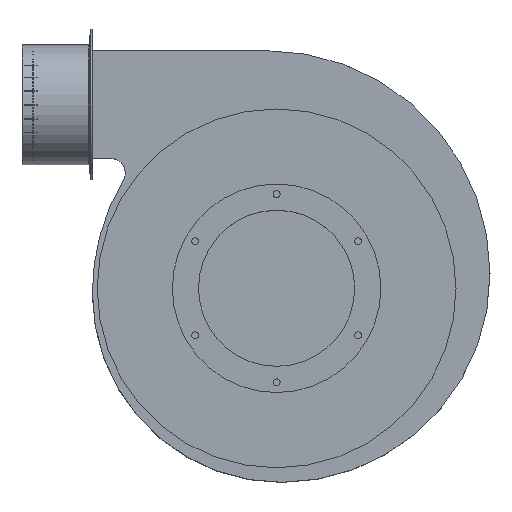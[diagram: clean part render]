
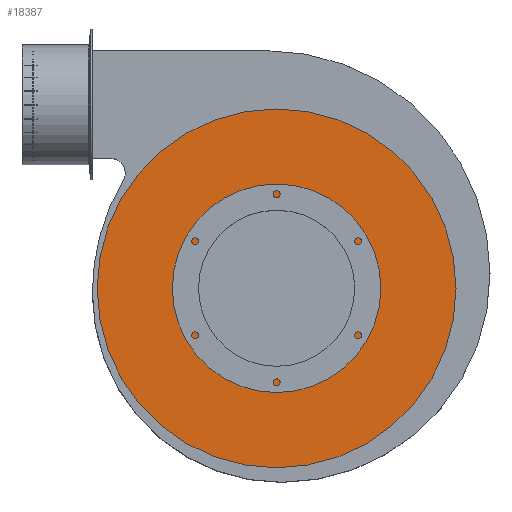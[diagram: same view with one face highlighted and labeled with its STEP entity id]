
A CAD part, top view. The second image highlights one B-rep face of the part: STEP entity #18387.
In plain terms, the highlighted planar face has unit normal (0, 0, 1).
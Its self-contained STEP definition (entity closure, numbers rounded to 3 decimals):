
#1089=PLANE('',#19105);
#1475=FACE_BOUND('',#3154,.T.);
#2173=FACE_OUTER_BOUND('',#3153,.T.);
#3153=EDGE_LOOP('',(#14496));
#3154=EDGE_LOOP('',(#14497,#14498));
#6929=CIRCLE('',#18874,82.5);
#7059=CIRCLE('',#19101,1.5);
#7060=CIRCLE('',#19103,185.);
#7438=VERTEX_POINT('',#23679);
#7439=VERTEX_POINT('',#23681);
#8318=VERTEX_POINT('',#35278);
#9225=EDGE_CURVE('',#7439,#7438,#6929,.T.);
#10530=EDGE_CURVE('',#7438,#7439,#7059,.T.);
#10531=EDGE_CURVE('',#8318,#8318,#7060,.T.);
#14496=ORIENTED_EDGE('',*,*,#10531,.F.);
#14497=ORIENTED_EDGE('',*,*,#10530,.T.);
#14498=ORIENTED_EDGE('',*,*,#9225,.T.);
#18387=ADVANCED_FACE('',(#2173,#1475),#1089,.F.);
#18874=AXIS2_PLACEMENT_3D('',#23682,#19968,#19969);
#19101=AXIS2_PLACEMENT_3D('',#35276,#20967,#20968);
#19103=AXIS2_PLACEMENT_3D('',#35279,#20971,#20972);
#19105=AXIS2_PLACEMENT_3D('',#35282,#20975,#20976);
#19968=DIRECTION('center_axis',(0.,0.,-1.));
#19969=DIRECTION('ref_axis',(-1.,0.,0.));
#20967=DIRECTION('center_axis',(0.,0.,-1.));
#20968=DIRECTION('ref_axis',(1.,0.,0.));
#20971=DIRECTION('center_axis',(0.,0.,-1.));
#20972=DIRECTION('ref_axis',(-1.,0.,0.));
#20975=DIRECTION('center_axis',(0.,0.,-1.));
#20976=DIRECTION('ref_axis',(-1.,0.,0.));
#23679=CARTESIAN_POINT('',(1621.253,592.985,4.5));
#23681=CARTESIAN_POINT('',(1624.253,592.985,4.5));
#23682=CARTESIAN_POINT('Origin',(1622.753,510.499,4.5));
#35276=CARTESIAN_POINT('Origin',(1622.753,592.999,4.5));
#35278=CARTESIAN_POINT('',(1807.753,510.499,4.5));
#35279=CARTESIAN_POINT('Origin',(1622.753,510.499,4.5));
#35282=CARTESIAN_POINT('Origin',(1622.753,510.499,4.5));
